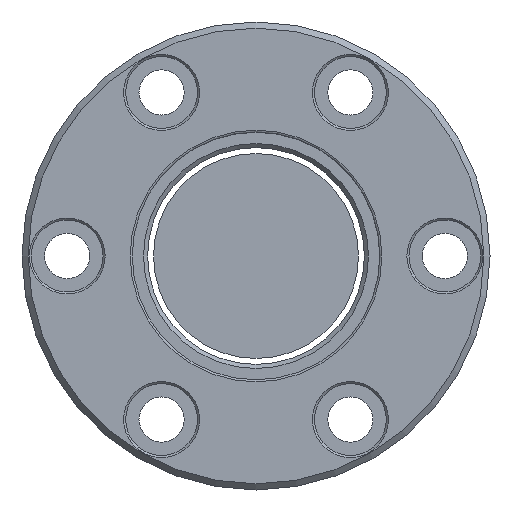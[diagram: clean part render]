
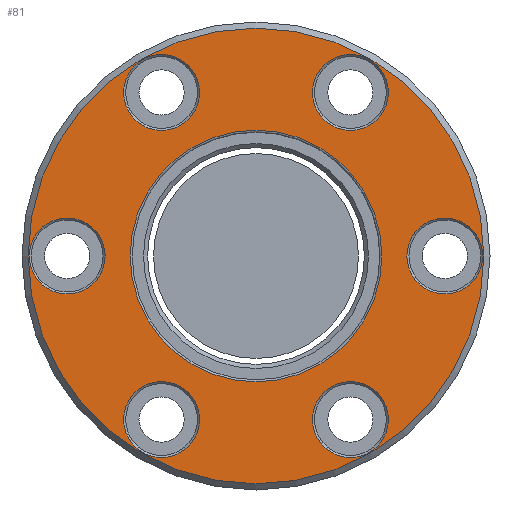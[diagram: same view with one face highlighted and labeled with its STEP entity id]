
A CAD part, front view. The second image highlights one B-rep face of the part: STEP entity #81.
In plain terms, the highlighted planar face has unit normal (0, -1, 0).
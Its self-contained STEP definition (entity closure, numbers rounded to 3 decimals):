
#65=PLANE('',#653);
#81=ADVANCED_FACE('',(#148,#149,#150,#151,#152,#153,#154,#155),#65,.T.);
#148=FACE_BOUND('',#258,.T.);
#149=FACE_BOUND('',#259,.T.);
#150=FACE_BOUND('',#260,.T.);
#151=FACE_BOUND('',#261,.T.);
#152=FACE_BOUND('',#262,.T.);
#153=FACE_BOUND('',#263,.T.);
#154=FACE_BOUND('',#264,.T.);
#155=FACE_BOUND('',#265,.T.);
#258=EDGE_LOOP('',(#368));
#259=EDGE_LOOP('',(#369));
#260=EDGE_LOOP('',(#370));
#261=EDGE_LOOP('',(#371));
#262=EDGE_LOOP('',(#372));
#263=EDGE_LOOP('',(#373));
#264=EDGE_LOOP('',(#374));
#265=EDGE_LOOP('',(#375));
#368=ORIENTED_EDGE('',*,*,#531,.T.);
#369=ORIENTED_EDGE('',*,*,#532,.T.);
#370=ORIENTED_EDGE('',*,*,#533,.T.);
#371=ORIENTED_EDGE('',*,*,#534,.T.);
#372=ORIENTED_EDGE('',*,*,#535,.T.);
#373=ORIENTED_EDGE('',*,*,#536,.T.);
#374=ORIENTED_EDGE('',*,*,#537,.T.);
#375=ORIENTED_EDGE('',*,*,#538,.T.);
#476=VERTEX_POINT('',#966);
#477=VERTEX_POINT('',#968);
#478=VERTEX_POINT('',#970);
#479=VERTEX_POINT('',#972);
#480=VERTEX_POINT('',#974);
#481=VERTEX_POINT('',#976);
#482=VERTEX_POINT('',#978);
#483=VERTEX_POINT('',#980);
#531=EDGE_CURVE('',#476,#476,#586,.T.);
#532=EDGE_CURVE('',#477,#477,#587,.T.);
#533=EDGE_CURVE('',#478,#478,#588,.T.);
#534=EDGE_CURVE('',#479,#479,#589,.T.);
#535=EDGE_CURVE('',#480,#480,#590,.T.);
#536=EDGE_CURVE('',#481,#481,#591,.T.);
#537=EDGE_CURVE('',#482,#482,#592,.T.);
#538=EDGE_CURVE('',#483,#483,#593,.T.);
#586=CIRCLE('',#645,30.65);
#587=CIRCLE('',#646,55.5);
#588=CIRCLE('',#647,9.25);
#589=CIRCLE('',#648,9.25);
#590=CIRCLE('',#649,9.25);
#591=CIRCLE('',#650,9.25);
#592=CIRCLE('',#651,9.25);
#593=CIRCLE('',#652,9.25);
#645=AXIS2_PLACEMENT_3D('',#965,#757,#758);
#646=AXIS2_PLACEMENT_3D('',#967,#759,#760);
#647=AXIS2_PLACEMENT_3D('',#969,#761,#762);
#648=AXIS2_PLACEMENT_3D('',#971,#763,#764);
#649=AXIS2_PLACEMENT_3D('',#973,#765,#766);
#650=AXIS2_PLACEMENT_3D('',#975,#767,#768);
#651=AXIS2_PLACEMENT_3D('',#977,#769,#770);
#652=AXIS2_PLACEMENT_3D('',#979,#771,#772);
#653=AXIS2_PLACEMENT_3D('',#981,#773,#774);
#757=DIRECTION('',(0.,1.,0.));
#758=DIRECTION('',(0.,0.,-1.));
#759=DIRECTION('',(0.,-1.,0.));
#760=DIRECTION('',(0.,0.,-1.));
#761=DIRECTION('',(0.,1.,0.));
#762=DIRECTION('',(0.,0.,-1.));
#763=DIRECTION('',(0.,1.,0.));
#764=DIRECTION('',(0.,0.,-1.));
#765=DIRECTION('',(0.,1.,0.));
#766=DIRECTION('',(0.,0.,-1.));
#767=DIRECTION('',(0.,1.,0.));
#768=DIRECTION('',(0.,0.,-1.));
#769=DIRECTION('',(0.,1.,0.));
#770=DIRECTION('',(0.,0.,-1.));
#771=DIRECTION('',(0.,1.,0.));
#772=DIRECTION('',(0.,0.,-1.));
#773=DIRECTION('',(0.,-1.,0.));
#774=DIRECTION('',(0.,0.,-1.));
#965=CARTESIAN_POINT('',(0.,0.,0.));
#966=CARTESIAN_POINT('',(0.,0.,-30.65));
#967=CARTESIAN_POINT('',(0.,0.,0.));
#968=CARTESIAN_POINT('',(0.,0.,-55.5));
#969=CARTESIAN_POINT('',(46.,0.,0.));
#970=CARTESIAN_POINT('',(46.,0.,-9.25));
#971=CARTESIAN_POINT('',(23.,0.,39.837));
#972=CARTESIAN_POINT('',(23.,0.,30.587));
#973=CARTESIAN_POINT('',(-23.,0.,39.837));
#974=CARTESIAN_POINT('',(-23.,0.,30.587));
#975=CARTESIAN_POINT('',(-23.,0.,-39.837));
#976=CARTESIAN_POINT('',(-23.,0.,-49.087));
#977=CARTESIAN_POINT('',(23.,0.,-39.837));
#978=CARTESIAN_POINT('',(23.,0.,-49.087));
#979=CARTESIAN_POINT('',(-46.,0.,0.));
#980=CARTESIAN_POINT('',(-46.,0.,-9.25));
#981=CARTESIAN_POINT('',(0.,0.,0.));
